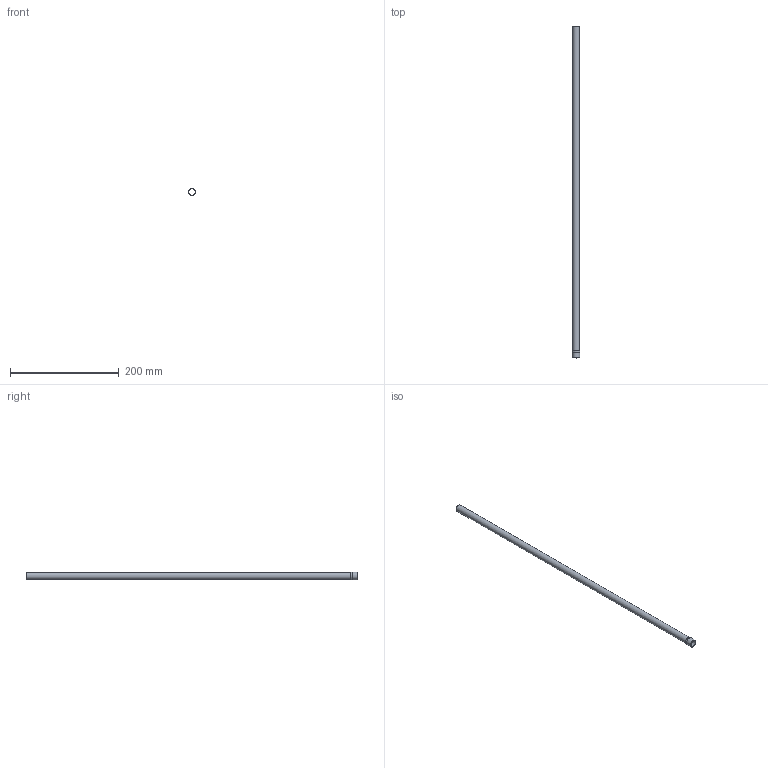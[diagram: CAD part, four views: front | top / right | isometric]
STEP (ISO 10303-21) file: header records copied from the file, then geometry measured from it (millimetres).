
FILE_DESCRIPTION(/* description */ (''),/* implementation_level */ '2;1');
FILE_NAME(/* name */ 'C:/Users/drich/Desktop/HF500T-24 v1.step',/* time_stamp */ '2019-12-30T13:33:20-06:00',/* author */ (''),/* organization */ (''),/* preprocessor_version */ 'ST-DEVELOPER v18',/* originating_system */ 'Autodesk Translation Framework v8.12.0.6',/* authorisation */ '');
FILE_SCHEMA (('AUTOMOTIVE_DESIGN { 1 0 10303 214 3 1 1 }'));
Length unit declared in the file: inch
Products named in the file (1): HF500T-24
Bounding box: 14.33 x 609.6 x 14.33 mm (x, y, z)
Volume: 16748.5 mm3; surface area: 46086.2 mm2
Topology: 1 solids, 1 shells, 12 faces, 30 edges, 22 vertices
Faces by surface type: plane 4, cylinder 4, torus 3, cone 1
Full cylindrical faces by diameter (mm): 11.278 x1, 12.7 x1, 14.143 x1, 14.326 x1
Entity records: 426 total; most frequent: DIRECTION 81, CARTESIAN_POINT 65, ORIENTED_EDGE 60, AXIS2_PLACEMENT_3D 38, EDGE_CURVE 30, CIRCLE 25, VERTEX_POINT 22, EDGE_LOOP 16
